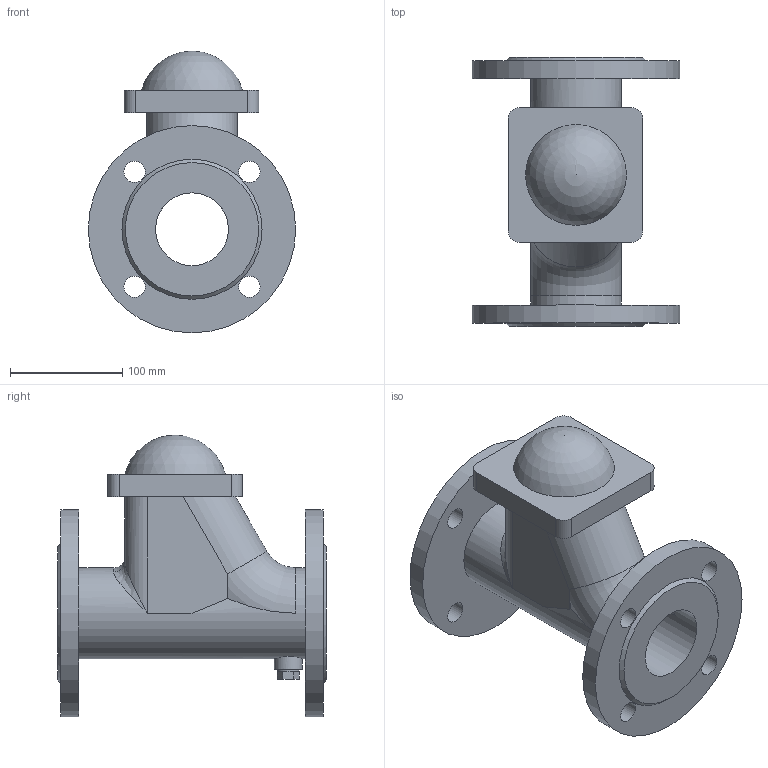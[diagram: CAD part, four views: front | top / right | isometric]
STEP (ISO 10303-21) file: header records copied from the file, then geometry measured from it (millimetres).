
FILE_DESCRIPTION(('STEP AP203'), '1');
FILE_NAME('Êëàïàí îáðàòíûé øàðîâîé ôëàíöåâûé 012F.Z DN65 PN10_16', '', ('UNSPECIFIED'), ('UNSPECIFIED'), 'ASCON STEP Converter 1.6', 'ASCON Math Kernel', '');
FILE_SCHEMA(('CONFIG_CONTROL_DESIGN'));
Length unit declared in the file: millimetre
Bounding box: 185 x 240 x 251.5 mm (x, y, z)
Volume: 2037550.6 mm3; surface area: 281226.3 mm2
Topology: 1 solids, 1 shells, 72 faces, 173 edges, 108 vertices
Faces by surface type: plane 42, cylinder 22, torus 3, bspline 2, cone 2, sphere 1
Full cylindrical faces by diameter (mm): 19 x9, 25 x1, 65 x1, 81 x1, 185 x2
Entity records: 3272 total; most frequent: CARTESIAN_POINT 1032, DIRECTION 339, ORIENTED_EDGE 302, EDGE_CURVE 151, AXIS2_PLACEMENT_3D 136, EDGE_LOOP 116, VERTEX_POINT 107, FACE_BOUND 84
